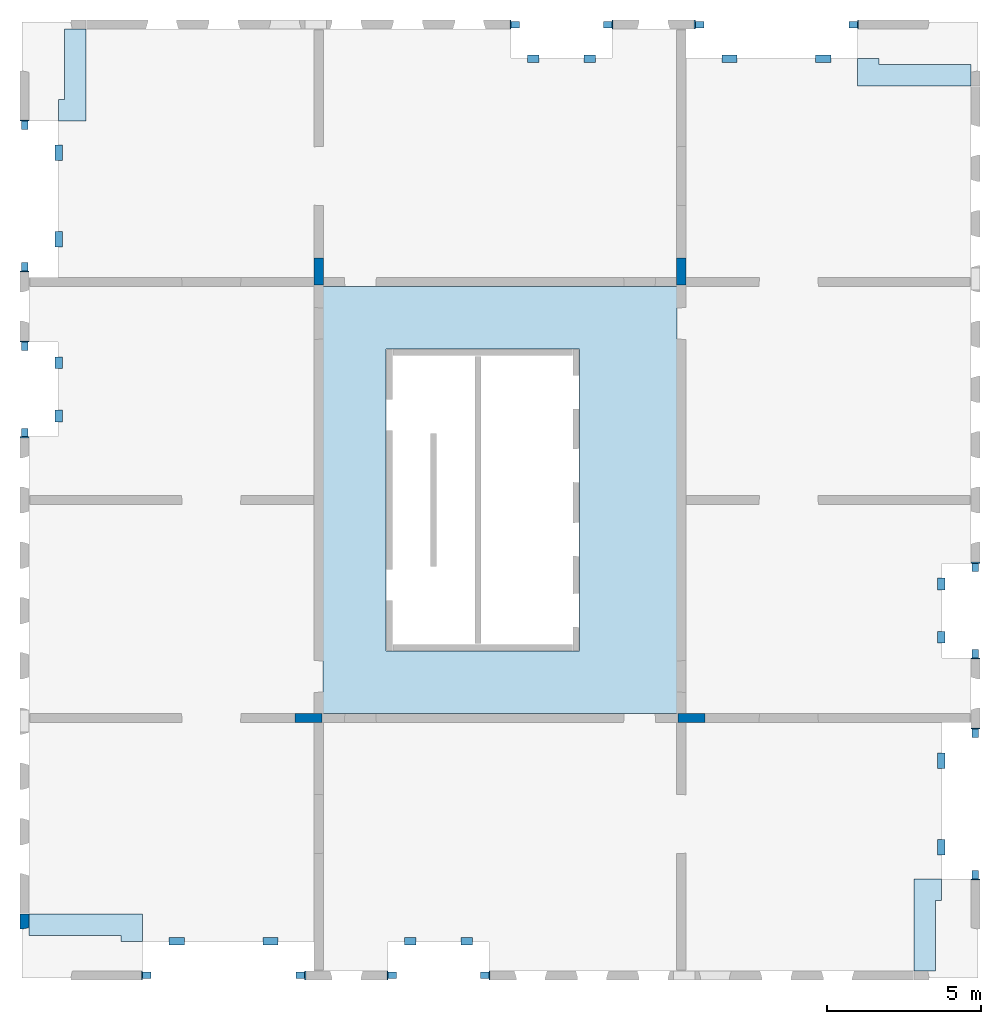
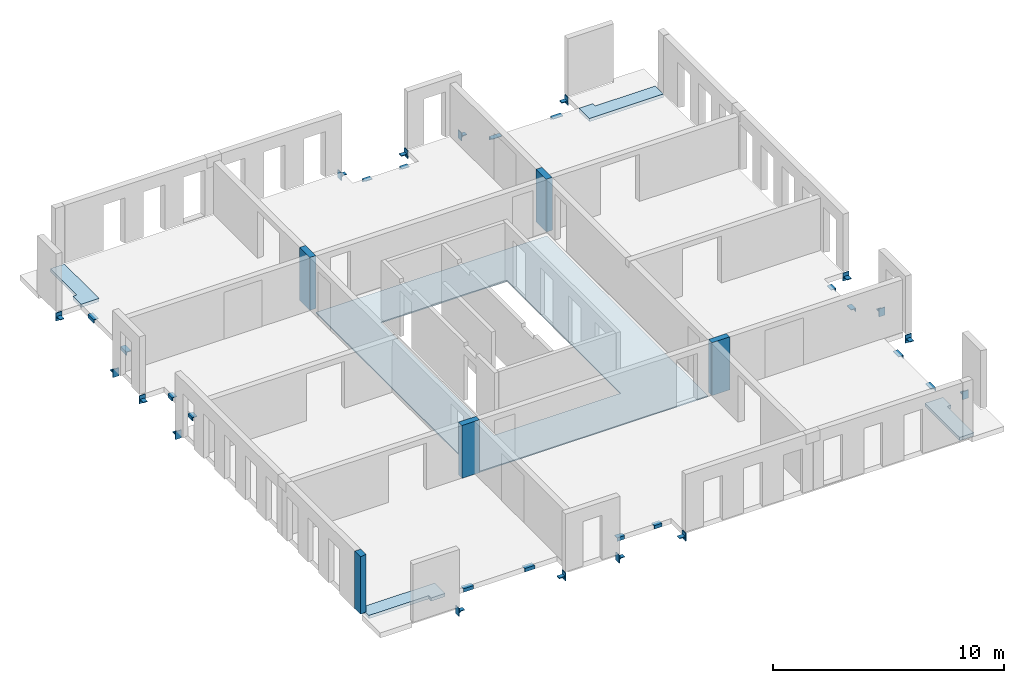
# One storey, part 1 of 5: 32 beams, 5 slabs, 4 columns, 1 wall, 2 openings.
"""IFC2X3 building model written with IfcOpenShell, lengths in millimetres."""

from ifc_helpers import new_model, entity, si_unit, converted_unit, derived_unit, direction, frame, frame_2d, origin, origin_2d_with_axis, place, context, subcontext, project, spatial, polyline, rectangle, outline, extrude, faceted_brep, source, transform, mapped, material, layer, layer_set, layer_usage, type_object, type_shapes, element, save


model = new_model("IFC2X3")

# Units and contexts
model_context = context("Model", 3, precision=0.01, world=origin(), true_north=direction((6.12303176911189e-17, 1.0)))
body_context = subcontext(model_context, "Body", "Model", "MODEL_VIEW")
ifc_project = project(units=[si_unit("LENGTHUNIT", "METRE", prefix="MILLI"), si_unit("AREAUNIT", "SQUARE_METRE"), si_unit("VOLUMEUNIT", "CUBIC_METRE"), converted_unit("PLANEANGLEUNIT", "DEGREE", entity("IfcRatioMeasure", 0.0174532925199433), si_unit("PLANEANGLEUNIT", "RADIAN"), dimensions=[0, 0, 0, 0, 0, 0, 0]), si_unit("MASSUNIT", "GRAM", prefix="KILO"), derived_unit("MASSDENSITYUNIT", [(si_unit("MASSUNIT", "GRAM", prefix="KILO"), 1), (si_unit("LENGTHUNIT", "METRE"), -3)]), si_unit("TIMEUNIT", "SECOND"), si_unit("FREQUENCYUNIT", "HERTZ"), si_unit("THERMODYNAMICTEMPERATUREUNIT", "DEGREE_CELSIUS"), derived_unit("THERMALTRANSMITTANCEUNIT", [(si_unit("MASSUNIT", "GRAM", prefix="KILO"), 1), (si_unit("THERMODYNAMICTEMPERATUREUNIT", "KELVIN"), -1), (si_unit("TIMEUNIT", "SECOND"), -3)]), derived_unit("VOLUMETRICFLOWRATEUNIT", [(si_unit("LENGTHUNIT", "METRE"), 3), (si_unit("TIMEUNIT", "SECOND"), -1)]), si_unit("ELECTRICCURRENTUNIT", "AMPERE"), si_unit("ELECTRICVOLTAGEUNIT", "VOLT"), si_unit("POWERUNIT", "WATT"), si_unit("FORCEUNIT", "NEWTON", prefix="KILO"), si_unit("ILLUMINANCEUNIT", "LUX"), si_unit("LUMINOUSFLUXUNIT", "LUMEN"), si_unit("LUMINOUSINTENSITYUNIT", "CANDELA"), derived_unit("USERDEFINED", [(si_unit("MASSUNIT", "GRAM", prefix="KILO"), -1), (si_unit("LENGTHUNIT", "METRE"), -2), (si_unit("TIMEUNIT", "SECOND"), 3), (si_unit("LUMINOUSFLUXUNIT", "LUMEN"), 1)]), derived_unit("LINEARVELOCITYUNIT", [(si_unit("LENGTHUNIT", "METRE"), 1), (si_unit("TIMEUNIT", "SECOND"), -1)]), si_unit("PRESSUREUNIT", "PASCAL"), derived_unit("USERDEFINED", [(si_unit("LENGTHUNIT", "METRE"), -2), (si_unit("MASSUNIT", "GRAM", prefix="KILO"), 1), (si_unit("TIMEUNIT", "SECOND"), -2)])], contexts=[model_context])

# Site, building, storey
site_placement = place(None, origin())
site = spatial("IfcSite", under=ifc_project, at=site_placement, Name="Default", CompositionType="ELEMENT")
building_placement = place(site_placement, origin())
building = spatial("IfcBuilding", under=site, at=building_placement, Name="niet gebruiken", CompositionType="ELEMENT")
storey_placement = place(building_placement, frame((0.0, 0.0, 155700.0)))
storey = spatial("IfcBuildingStorey", under=building, at=storey_placement, Name="50 vijftigste verdieping", CompositionType="ELEMENT", Elevation=155700.0)

# Columns
ifc_material_1 = material(Name="NLRS_f2_beton ihwg")
column_type_1 = type_object("IfcColumnType", Name="300x880", PredefinedType="COLUMN", material=ifc_material_1)
shared_shape_1 = source(origin(), body_context, "Body", "SweptSolid", [
    extrude(rectangle(XDim=879.999999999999, YDim=300.000000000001, at=origin_2d_with_axis()), frame((135850.0, 24940.0, 155610.0), z_axis=(0.0, 0.0, 1.0), x_axis=(0.0, -1.0, 0.0)), (0.0, 0.0, 1.0), 2789.99999999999),
])
type_shapes(column_type_1, [shared_shape_1])
column_1_placement = place(storey_placement, frame((0.0, 0.0, -155700.0)))
element("IfcColumn", 1, at=column_1_placement, inside=storey, type_object=column_type_1, material=ifc_material_1, Name="NLRS_28.11_SCO_TLB_beton kolom ihwg_gen:300x880", ObjectType="300x880", context=body_context, shape_type="MappedRepresentation", body=[
    mapped(shared_shape_1, transform((0.0, 0.0, 0.0), scale=1.0)),
])
column_type_2 = type_object("IfcColumnType", Name="300x880", PredefinedType="COLUMN", material=ifc_material_1)
shared_shape_2 = source(origin(), body_context, "Body", "SweptSolid", [
    extrude(rectangle(XDim=879.999999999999, YDim=300.000000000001, at=origin_2d_with_axis()), frame((147650.0, 24940.0, 155610.0), z_axis=(0.0, 0.0, 1.0), x_axis=(0.0, -1.0, 0.0)), (0.0, 0.0, 1.0), 2789.99999999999),
])
type_shapes(column_type_2, [shared_shape_2])
column_2_placement = place(storey_placement, frame((0.0, 0.0, -155700.0)))
element("IfcColumn", 2, at=column_2_placement, inside=storey, type_object=column_type_2, material=ifc_material_1, Name="NLRS_28.11_SCO_TLB_beton kolom ihwg_gen:300x880", ObjectType="300x880", context=body_context, shape_type="MappedRepresentation", body=[
    mapped(shared_shape_2, transform((0.0, 0.0, 0.0), scale=1.0)),
])
column_type_3 = type_object("IfcColumnType", Name="300x880", PredefinedType="COLUMN", material=ifc_material_1)
shared_shape_3 = source(origin(), body_context, "Body", "SweptSolid", [
    extrude(rectangle(XDim=300.000000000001, YDim=880.000000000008, at=origin_2d_with_axis()), frame((135510.003540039, 10400.0, 155610.0), z_axis=(0.0, 0.0, 1.0), x_axis=(0.0, -1.0, 0.0)), (0.0, 0.0, 1.0), 2789.99999999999),
])
type_shapes(column_type_3, [shared_shape_3])
column_3_placement = place(storey_placement, frame((0.0, 0.0, -155700.0)))
element("IfcColumn", 3, at=column_3_placement, inside=storey, type_object=column_type_3, material=ifc_material_1, Name="NLRS_28.11_SCO_TLB_beton kolom ihwg_gen:300x880", ObjectType="300x880", context=body_context, shape_type="MappedRepresentation", body=[
    mapped(shared_shape_3, transform((0.0, 0.0, 0.0), scale=1.0)),
])
column_type_4 = type_object("IfcColumnType", Name="300x880", PredefinedType="COLUMN", material=ifc_material_1)
shared_shape_4 = source(origin(), body_context, "Body", "SweptSolid", [
    extrude(rectangle(XDim=300.000000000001, YDim=880.000000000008, at=origin_2d_with_axis()), frame((147990.0, 10400.0, 155610.0), z_axis=(0.0, 0.0, 1.0), x_axis=(0.0, -1.0, 0.0)), (0.0, 0.0, 1.0), 2789.99999999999),
])
type_shapes(column_type_4, [shared_shape_4])
column_4_placement = place(storey_placement, frame((0.0, 0.0, -155700.0)))
element("IfcColumn", 4, at=column_4_placement, inside=storey, type_object=column_type_4, material=ifc_material_1, Name="NLRS_28.11_SCO_TLB_beton kolom ihwg_gen:300x880", ObjectType="300x880", context=body_context, shape_type="MappedRepresentation", body=[
    mapped(shared_shape_4, transform((0.0, 0.0, 0.0), scale=1.0)),
])

# Beams
ifc_material_2 = material(Name="NLRS_h2_staal")
beam_type_1 = type_object("IfcBeamType", Name="NLRS_28.11_SF_WPB_stalen schoen 4_gen", PredefinedType="BEAM", material=ifc_material_2)
shared_shape_5 = source(origin(), body_context, "Body", "SweptSolid", [
    extrude(outline(polyline([(-69.4999999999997, -23.0), (8.49999999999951, -23.0), (30.5, -1.0), (30.5000000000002, 47.0), (-69.4999999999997, -23.0)])), frame((-105.0, -109.499999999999, -58.0), z_axis=(1.0, 0.0, 0.0), x_axis=(0.0, -1.0, 0.0)), (0.0, 0.0, 1.0), 35.0),
    extrude(outline(polyline([(-69.4999999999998, -23.0), (8.49999999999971, -23.0), (30.5, -1.0), (30.5000000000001, 47.0), (-69.4999999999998, -23.0)])), frame((70.0, -109.499999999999, -58.0), z_axis=(1.0, 0.0, 0.0), x_axis=(0.0, -1.0, 0.0)), (0.0, 0.0, 1.0), 35.0),
    extrude(rectangle(XDim=300.0, YDim=34.9999999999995, at=origin_2d_with_axis()), frame((0.0, -157.5, -230.0), z_axis=(0.0, 0.0, 1.0), x_axis=(-1.0, 0.0, 0.0)), (0.0, 0.0, 1.0), 420.0),
    extrude(rectangle(XDim=210.000000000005, YDim=274.999999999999, at=origin_2d_with_axis()), frame((0.0, -2.4999999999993, -35.0), z_axis=(0.0, 0.0, 1.0), x_axis=(-1.0, 0.0, 0.0)), (0.0, 0.0, 1.0), 35.0),
])
type_shapes(beam_type_1, [shared_shape_5])
beam_1_placement = place(storey_placement, frame((157230.0, 12500.0, -310.0)))
element("IfcBeam", 5, at=beam_1_placement, inside=storey, type_object=beam_type_1, material=ifc_material_2, Name="NLRS_28.11_SF_WPB_stalen schoen 4_gen:NLRS_28.11_SF_WPB_stalen schoen 4_gen", ObjectType="NLRS_28.11_SF_WPB_stalen schoen 4_gen", context=body_context, shape_type="MappedRepresentation", body=[
    mapped(shared_shape_5, transform((0.0, 0.0, 0.0), scale=1.0)),
])
for number, where, z_axis, x_axis, name in (
    (6, (157230.0, 15300.0, -310.0), (0.0, 0.0, 1.0), (-1.0, 0.0, 0.0), "NLRS_28.11_SF_WPB_stalen schoen 4_gen:NLRS_28.11_SF_WPB_stalen schoen 4_gen"),
    (7, (126270.0, 22500.0, -310.0), (0.0, 0.0, 1.0), (-1.0, 0.0, 0.0), "NLRS_28.11_SF_WPB_stalen schoen 4_gen:NLRS_28.11_SF_WPB_stalen schoen 4_gen"),
):
    element("IfcBeam", number, at=place(storey_placement, frame(where, z_axis=z_axis, x_axis=x_axis)), inside=storey, type_object=beam_type_1, material=ifc_material_2, Name=name, ObjectType="NLRS_28.11_SF_WPB_stalen schoen 4_gen", context=body_context, shape_type="MappedRepresentation", body=[
        mapped(shared_shape_5, transform((0.0, 0.0, 0.0), scale=1.0)),
    ])
beam_2_placement = place(storey_placement, frame((126270.0, 19700.0, -310.0)))
element("IfcBeam", 8, at=beam_2_placement, inside=storey, type_object=beam_type_1, material=ifc_material_2, Name="NLRS_28.11_SF_WPB_stalen schoen 4_gen:NLRS_28.11_SF_WPB_stalen schoen 4_gen", ObjectType="NLRS_28.11_SF_WPB_stalen schoen 4_gen", context=body_context, shape_type="MappedRepresentation", body=[
    mapped(shared_shape_5, transform((0.0, 0.0, 0.0), scale=1.0)),
])
for number, where, z_axis, x_axis, name in (
    (9, (138250.0, 2020.0, -310.0), (0.0, 0.0, 1.0), (0.0, -1.0, 0.0), "NLRS_28.11_SF_WPB_stalen schoen 4_gen:NLRS_28.11_SF_WPB_stalen schoen 4_gen"),
    (10, (141250.0, 2020.0, -310.0), (0.0, 0.0, 1.0), (0.0, 1.0, 0.0), "NLRS_28.11_SF_WPB_stalen schoen 4_gen:NLRS_28.11_SF_WPB_stalen schoen 4_gen"),
    (11, (145250.0, 32980.0, -310.0), (0.0, 0.0, 1.0), (0.0, 1.0, 0.0), "NLRS_28.11_SF_WPB_stalen schoen 4_gen:NLRS_28.11_SF_WPB_stalen schoen 4_gen"),
    (12, (142250.0, 32980.0, -310.0), (0.0, 0.0, 1.0), (0.0, -1.0, 0.0), "NLRS_28.11_SF_WPB_stalen schoen 4_gen:NLRS_28.11_SF_WPB_stalen schoen 4_gen"),
):
    element("IfcBeam", number, at=place(storey_placement, frame(where, z_axis=z_axis, x_axis=x_axis)), inside=storey, type_object=beam_type_1, material=ifc_material_2, Name=name, ObjectType="NLRS_28.11_SF_WPB_stalen schoen 4_gen", context=body_context, shape_type="MappedRepresentation", body=[
        mapped(shared_shape_5, transform((0.0, 0.0, 0.0), scale=1.0)),
    ])
beam_type_2 = type_object("IfcBeamType", Name="NLRS_28.11_SF_WPB_stalen schoen 3_gen", PredefinedType="BEAM", material=ifc_material_2)
shared_shape_6 = source(origin(), body_context, "Body", "SweptSolid", [
    extrude(outline(polyline([(-69.4999999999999, -23.0), (8.49999999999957, -23.0), (30.5000000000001, -1.0), (30.5000000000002, 47.0), (-69.4999999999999, -23.0)])), frame((-105.0, -109.499999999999, -63.0), z_axis=(1.0, 0.0, 0.0), x_axis=(0.0, -1.0, 0.0)), (0.0, 0.0, 1.0), 40.0),
    extrude(outline(polyline([(-69.4999999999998, -23.0), (8.49999999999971, -23.0), (30.5, -1.0), (30.5000000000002, 47.0), (-69.4999999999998, -23.0)])), frame((65.0, -109.499999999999, -63.0), z_axis=(1.0, 0.0, 0.0), x_axis=(0.0, -1.0, 0.0)), (0.0, 0.0, 1.0), 40.0),
    extrude(rectangle(XDim=300.0, YDim=39.9999999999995, at=origin_2d_with_axis()), frame((0.0, -160.0, -230.0), z_axis=(0.0, 0.0, 1.0), x_axis=(-1.0, 0.0, 0.0)), (0.0, 0.0, 1.0), 420.0),
    extrude(rectangle(XDim=210.000000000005, YDim=274.999999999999, at=origin_2d_with_axis()), frame((0.0, -2.49999999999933, -40.0), z_axis=(0.0, 0.0, 1.0), x_axis=(-1.0, 0.0, 0.0)), (0.0, 0.0, 1.0), 39.9999999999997),
])
type_shapes(beam_type_2, [shared_shape_6])
beam_3_placement = place(storey_placement, frame((157230.0, 9900.0, -310.0), z_axis=(0.0, 0.0, 1.0), x_axis=(-1.0, 0.0, 0.0)))
element("IfcBeam", 13, at=beam_3_placement, inside=storey, type_object=beam_type_2, material=ifc_material_2, Name="NLRS_28.11_SF_WPB_stalen schoen 3_gen:NLRS_28.11_SF_WPB_stalen schoen 3_gen", ObjectType="NLRS_28.11_SF_WPB_stalen schoen 3_gen", context=body_context, shape_type="MappedRepresentation", body=[
    mapped(shared_shape_6, transform((0.0, 0.0, 0.0), scale=1.0)),
])
for number, where, name in (
    (14, (157230.0, 5300.0, -310.0), "NLRS_28.11_SF_WPB_stalen schoen 3_gen:NLRS_28.11_SF_WPB_stalen schoen 3_gen"),
    (15, (126270.0, 25100.0, -310.0), "NLRS_28.11_SF_WPB_stalen schoen 3_gen:NLRS_28.11_SF_WPB_stalen schoen 3_gen"),
):
    element("IfcBeam", number, at=place(storey_placement, frame(where)), inside=storey, type_object=beam_type_2, material=ifc_material_2, Name=name, ObjectType="NLRS_28.11_SF_WPB_stalen schoen 3_gen", context=body_context, shape_type="MappedRepresentation", body=[
        mapped(shared_shape_6, transform((0.0, 0.0, 0.0), scale=1.0)),
    ])
for number, where, z_axis, x_axis, name in (
    (16, (126270.0, 29700.0, -310.0), (0.0, 0.0, 1.0), (-1.0, 0.0, 0.0), "NLRS_28.11_SF_WPB_stalen schoen 3_gen:NLRS_28.11_SF_WPB_stalen schoen 3_gen"),
    (17, (135250.0, 2020.0, -310.0), (0.0, 0.0, 1.0), (0.0, 1.0, 0.0), "NLRS_28.11_SF_WPB_stalen schoen 3_gen:NLRS_28.11_SF_WPB_stalen schoen 3_gen"),
    (18, (130250.0, 2020.0, -310.0), (0.0, 0.0, 1.0), (0.0, -1.0, 0.0), "NLRS_28.11_SF_WPB_stalen schoen 3_gen:NLRS_28.11_SF_WPB_stalen schoen 3_gen"),
    (19, (148250.0, 32980.0, -310.0), (0.0, 0.0, 1.0), (0.0, -1.0, 0.0), "NLRS_28.11_SF_WPB_stalen schoen 3_gen:NLRS_28.11_SF_WPB_stalen schoen 3_gen"),
    (20, (153250.0, 32980.0, -310.0), (0.0, 0.0, 1.0), (0.0, 1.0, 0.0), "NLRS_28.11_SF_WPB_stalen schoen 3_gen:NLRS_28.11_SF_WPB_stalen schoen 3_gen"),
):
    element("IfcBeam", number, at=place(storey_placement, frame(where, z_axis=z_axis, x_axis=x_axis)), inside=storey, type_object=beam_type_2, material=ifc_material_2, Name=name, ObjectType="NLRS_28.11_SF_WPB_stalen schoen 3_gen", context=body_context, shape_type="MappedRepresentation", body=[
        mapped(shared_shape_6, transform((0.0, 0.0, 0.0), scale=1.0)),
    ])
beam_type_3 = type_object("IfcBeamType", Name="NLRS_28.11_SF_WPB_stalen handje 7 lang 375_gen:NLRS_28.11_SF_WPB_stalen handje 7_gen", PredefinedType="BEAM")
beam_4_placement = place(storey_placement, frame((156235.125015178, 9255.24886461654, -93.0), z_axis=(0.0, 0.0, 1.0), x_axis=(0.0, -1.0, 0.0)))
element("IfcBeam", 21, at=beam_4_placement, inside=storey, type_object=beam_type_3, material=ifc_material_2, Name="NLRS_28.11_SF_WPB_stalen handje 7 lang 375_gen:NLRS_28.11_SF_WPB_stalen handje 7_gen", ObjectType="NLRS_28.11_SF_WPB_stalen handje 7 lang 375_gen:NLRS_28.11_SF_WPB_stalen handje 7_gen", context=body_context, shape_type="SweptSolid", body=[
    extrude(outline(polyline([(-70.6666666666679, -153.333333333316), (-40.6666666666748, -153.333333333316), (-40.6666666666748, 61.66666666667), (111.333333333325, 61.66666666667), (111.333333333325, 91.6666666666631), (-70.6666666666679, 91.6666666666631), (-70.6666666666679, -153.333333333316)])), frame((0.0, -91.6666666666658, -70.6666666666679), z_axis=(1.0, 0.0, 0.0), x_axis=(0.0, 0.0, -1.0)), (0.0, 0.0, 1.0), 500.000000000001),
])
beam_5_placement = place(storey_placement, frame((156235.125015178, 6445.2458243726, -93.0), z_axis=(0.0, 0.0, 1.0), x_axis=(0.0, -1.0, 0.0)))
element("IfcBeam", 22, at=beam_5_placement, inside=storey, type_object=beam_type_3, material=ifc_material_2, Name="NLRS_28.11_SF_WPB_stalen handje 7 lang 375_gen:NLRS_28.11_SF_WPB_stalen handje 7_gen", ObjectType="NLRS_28.11_SF_WPB_stalen handje 7 lang 375_gen:NLRS_28.11_SF_WPB_stalen handje 7_gen", context=body_context, shape_type="SweptSolid", body=[
    extrude(outline(polyline([(-70.6666666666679, -153.333333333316), (-40.6666666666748, -153.333333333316), (-40.6666666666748, 61.66666666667), (111.333333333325, 61.66666666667), (111.333333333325, 91.6666666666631), (-70.6666666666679, 91.6666666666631), (-70.6666666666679, -153.333333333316)])), frame((0.0, -91.6666666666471, -70.6666666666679), z_axis=(1.0, 0.0, 0.0), x_axis=(0.0, 0.0, -1.0)), (0.0, 0.0, 1.0), 500.000000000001),
])
beam_6_placement = place(storey_placement, frame((127264.874984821, 25744.7511353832, -93.0), z_axis=(0.0, 0.0, 1.0), x_axis=(0.0, 1.0, 0.0)))
element("IfcBeam", 23, at=beam_6_placement, inside=storey, type_object=beam_type_3, material=ifc_material_2, Name="NLRS_28.11_SF_WPB_stalen handje 7 lang 375_gen:NLRS_28.11_SF_WPB_stalen handje 7_gen", ObjectType="NLRS_28.11_SF_WPB_stalen handje 7 lang 375_gen:NLRS_28.11_SF_WPB_stalen handje 7_gen", context=body_context, shape_type="SweptSolid", body=[
    extrude(outline(polyline([(-70.6666666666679, -153.333333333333), (-40.6666666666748, -153.333333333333), (-40.6666666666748, 61.66666666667), (111.333333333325, 61.6666666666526), (111.333333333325, 91.6666666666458), (-70.6666666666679, 91.6666666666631), (-70.6666666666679, -153.333333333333)])), frame((0.0, -91.6666666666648, -70.6666666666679), z_axis=(1.0, 0.0, 0.0), x_axis=(0.0, 0.0, -1.0)), (0.0, 0.0, 1.0), 500.000000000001),
])
beam_7_placement = place(storey_placement, frame((127264.874984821, 28554.7541756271, -93.0), z_axis=(0.0, 0.0, 1.0), x_axis=(0.0, 1.0, 0.0)))
element("IfcBeam", 24, at=beam_7_placement, inside=storey, type_object=beam_type_3, material=ifc_material_2, Name="NLRS_28.11_SF_WPB_stalen handje 7 lang 375_gen:NLRS_28.11_SF_WPB_stalen handje 7_gen", ObjectType="NLRS_28.11_SF_WPB_stalen handje 7 lang 375_gen:NLRS_28.11_SF_WPB_stalen handje 7_gen", context=body_context, shape_type="SweptSolid", body=[
    extrude(outline(polyline([(-70.6666666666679, -153.333333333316), (-40.6666666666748, -153.333333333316), (-40.6666666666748, 61.6666666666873), (111.333333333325, 61.66666666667), (111.333333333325, 91.6666666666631), (-70.6666666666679, 91.6666666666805), (-70.6666666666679, -153.333333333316)])), frame((0.0, -91.66666666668, -70.6666666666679), z_axis=(1.0, 0.0, 0.0), x_axis=(0.0, 0.0, -1.0)), (0.0, 0.0, 1.0), 500.000000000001),
])
for number, where, z_axis, x_axis, name in (
    (25, (140862.631597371, 3015.23611279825, -93.0), (0.0, 0.0, 1.0), (-1.0, 0.0, 0.0), "NLRS_28.11_SF_WPB_stalen handje 7 lang 375_gen:NLRS_28.11_SF_WPB_stalen handje 7_gen"),
    (26, (139012.628555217, 3015.2361127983, -93.0), (0.0, 0.0, 1.0), (-1.0, 0.0, 0.0), "NLRS_28.11_SF_WPB_stalen handje 7 lang 375_gen:NLRS_28.11_SF_WPB_stalen handje 7_gen"),
):
    element("IfcBeam", number, at=place(storey_placement, frame(where, z_axis=z_axis, x_axis=x_axis)), inside=storey, type_object=beam_type_3, material=ifc_material_2, Name=name, ObjectType="NLRS_28.11_SF_WPB_stalen handje 7 lang 375_gen:NLRS_28.11_SF_WPB_stalen handje 7_gen", context=body_context, shape_type="SweptSolid", body=[
        extrude(outline(polyline([(-70.666666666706, -153.333333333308), (-40.6666666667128, -153.333333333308), (-40.6666666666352, 61.6666666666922), (111.333333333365, 61.6666666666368), (111.333333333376, 91.6666666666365), (-70.6666666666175, 91.6666666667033), (-70.666666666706, -153.333333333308)])), frame((0.0, -91.6666666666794, -70.6666666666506), z_axis=(1.0, 0.0, 0.0), x_axis=(0.0, 0.0, -1.0)), (0.0, 0.0, 1.0), 375.000000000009),
    ])
for number, where, z_axis, x_axis, name in (
    (27, (134525.131597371, 3015.23611279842, -93.0), (0.0, 0.0, 1.0), (-1.0, 0.0, 0.0), "NLRS_28.11_SF_WPB_stalen handje 7 lang 375_gen:NLRS_28.11_SF_WPB_stalen handje 7_gen"),
    (28, (131475.128555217, 3015.23611279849, -93.0), (0.0, 0.0, 1.0), (-1.0, 0.0, 0.0), "NLRS_28.11_SF_WPB_stalen handje 7 lang 375_gen:NLRS_28.11_SF_WPB_stalen handje 7_gen"),
):
    element("IfcBeam", number, at=place(storey_placement, frame(where, z_axis=z_axis, x_axis=x_axis)), inside=storey, type_object=beam_type_3, material=ifc_material_2, Name=name, ObjectType="NLRS_28.11_SF_WPB_stalen handje 7 lang 375_gen:NLRS_28.11_SF_WPB_stalen handje 7_gen", context=body_context, shape_type="SweptSolid", body=[
        extrude(outline(polyline([(-70.6666666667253, -153.333333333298), (-40.6666666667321, -153.333333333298), (-40.6666666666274, 61.6666666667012), (111.333333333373, 61.6666666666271), (111.333333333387, 91.6666666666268), (-70.6666666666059, 91.666666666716), (-70.6666666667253, -153.333333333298)])), frame((0.0, -91.6666666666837, -70.6666666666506), z_axis=(1.0, 0.0, 0.0), x_axis=(0.0, 0.0, -1.0)), (0.0, 0.0, 1.0), 500.000000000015),
    ])
for number, where, name in (
    (29, (142637.368402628, 31984.7638872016, -93.0), "NLRS_28.11_SF_WPB_stalen handje 7 lang 375_gen:NLRS_28.11_SF_WPB_stalen handje 7_gen"),
    (30, (144487.371444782, 31984.7638872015, -93.0), "NLRS_28.11_SF_WPB_stalen handje 7 lang 375_gen:NLRS_28.11_SF_WPB_stalen handje 7_gen"),
):
    element("IfcBeam", number, at=place(storey_placement, frame(where)), inside=storey, type_object=beam_type_3, material=ifc_material_2, Name=name, ObjectType="NLRS_28.11_SF_WPB_stalen handje 7 lang 375_gen:NLRS_28.11_SF_WPB_stalen handje 7_gen", context=body_context, shape_type="SweptSolid", body=[
        extrude(outline(polyline([(-70.6666666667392, -153.333333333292), (-40.666666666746, -153.333333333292), (-40.6666666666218, 61.6666666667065), (111.333333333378, 61.6666666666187), (111.333333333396, 91.6666666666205), (-70.6666666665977, 91.6666666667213), (-70.6666666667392, -153.333333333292)])), frame((0.0, -91.6666666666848, -70.6666666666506), z_axis=(1.0, 0.0, 0.0), x_axis=(0.0, 0.0, -1.0)), (0.0, 0.0, 1.0), 375.000000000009),
    ])
for number, where, name in (
    (31, (148974.868402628, 31984.7638872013, -93.0), "NLRS_28.11_SF_WPB_stalen handje 7 lang 375_gen:NLRS_28.11_SF_WPB_stalen handje 7_gen"),
    (32, (152024.871444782, 31984.7638872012, -93.0), "NLRS_28.11_SF_WPB_stalen handje 7 lang 375_gen:NLRS_28.11_SF_WPB_stalen handje 7_gen"),
):
    element("IfcBeam", number, at=place(storey_placement, frame(where)), inside=storey, type_object=beam_type_3, material=ifc_material_2, Name=name, ObjectType="NLRS_28.11_SF_WPB_stalen handje 7 lang 375_gen:NLRS_28.11_SF_WPB_stalen handje 7_gen", context=body_context, shape_type="SweptSolid", body=[
        extrude(outline(polyline([(-70.6666666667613, -153.333333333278), (-40.6666666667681, -153.333333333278), (-40.6666666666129, 61.6666666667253), (111.333333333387, 61.6666666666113), (111.333333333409, 91.6666666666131), (-70.6666666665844, 91.6666666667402), (-70.6666666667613, -153.333333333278)])), frame((0.0, -91.6666666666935, -70.6666666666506), z_axis=(1.0, 0.0, 0.0), x_axis=(0.0, 0.0, -1.0)), (0.0, 0.0, 1.0), 500.000000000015),
    ])
beam_8_placement = place(storey_placement, frame((156235.0, 14952.5097115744, -93.0), z_axis=(0.0, 0.0, 1.0), x_axis=(0.0, -1.0, 0.0)))
element("IfcBeam", 33, at=beam_8_placement, inside=storey, type_object=beam_type_3, material=ifc_material_2, Name="NLRS_28.11_SF_WPB_stalen handje 7 lang 375_gen:NLRS_28.11_SF_WPB_stalen handje 7_gen", ObjectType="NLRS_28.11_SF_WPB_stalen handje 7 lang 375_gen:NLRS_28.11_SF_WPB_stalen handje 7_gen", context=body_context, shape_type="SweptSolid", body=[
    extrude(outline(polyline([(-70.6666666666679, -153.333333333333), (-40.6666666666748, -153.333333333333), (-40.6666666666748, 61.66666666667), (111.333333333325, 61.66666666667), (111.333333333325, 91.6666666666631), (-70.6666666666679, 91.6666666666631), (-70.6666666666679, -153.333333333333)])), frame((0.0, -91.6666666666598, -70.6666666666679), z_axis=(1.0, 0.0, 0.0), x_axis=(0.0, 0.0, -1.0)), (0.0, 0.0, 1.0), 375.000000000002),
])
beam_9_placement = place(storey_placement, frame((156235.0, 13222.5097115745, -93.0), z_axis=(0.0, 0.0, 1.0), x_axis=(0.0, -1.0, 0.0)))
element("IfcBeam", 34, at=beam_9_placement, inside=storey, type_object=beam_type_3, material=ifc_material_2, Name="NLRS_28.11_SF_WPB_stalen handje 7 lang 375_gen:NLRS_28.11_SF_WPB_stalen handje 7_gen", ObjectType="NLRS_28.11_SF_WPB_stalen handje 7 lang 375_gen:NLRS_28.11_SF_WPB_stalen handje 7_gen", context=body_context, shape_type="SweptSolid", body=[
    extrude(outline(polyline([(-70.6666666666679, -153.333333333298), (-40.6666666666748, -153.333333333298), (-40.6666666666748, 61.6666666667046), (111.333333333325, 61.6666666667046), (111.333333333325, 91.6666666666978), (-70.6666666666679, 91.6666666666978), (-70.6666666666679, -153.333333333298)])), frame((0.0, -91.6666666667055, -70.6666666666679), z_axis=(1.0, 0.0, 0.0), x_axis=(0.0, 0.0, -1.0)), (0.0, 0.0, 1.0), 375.000000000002),
])
beam_10_placement = place(storey_placement, frame((127265.0, 20047.4902884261, -93.0), z_axis=(0.0, 0.0, 1.0), x_axis=(0.0, 1.0, 0.0)))
element("IfcBeam", 35, at=beam_10_placement, inside=storey, type_object=beam_type_3, material=ifc_material_2, Name="NLRS_28.11_SF_WPB_stalen handje 7 lang 375_gen:NLRS_28.11_SF_WPB_stalen handje 7_gen", ObjectType="NLRS_28.11_SF_WPB_stalen handje 7 lang 375_gen:NLRS_28.11_SF_WPB_stalen handje 7_gen", context=body_context, shape_type="SweptSolid", body=[
    extrude(outline(polyline([(-70.6666666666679, -153.333333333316), (-40.6666666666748, -153.333333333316), (-40.6666666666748, 61.6666666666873), (111.333333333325, 61.66666666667), (111.333333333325, 91.6666666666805), (-70.6666666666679, 91.6666666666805), (-70.6666666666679, -153.333333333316)])), frame((0.0, -91.6666666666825, -70.6666666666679), z_axis=(1.0, 0.0, 0.0), x_axis=(0.0, 0.0, -1.0)), (0.0, 0.0, 1.0), 375.000000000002),
])
beam_11_placement = place(storey_placement, frame((127265.0, 21777.4902884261, -93.0), z_axis=(0.0, 0.0, 1.0), x_axis=(0.0, 1.0, 0.0)))
element("IfcBeam", 36, at=beam_11_placement, inside=storey, type_object=beam_type_3, material=ifc_material_2, Name="NLRS_28.11_SF_WPB_stalen handje 7 lang 375_gen:NLRS_28.11_SF_WPB_stalen handje 7_gen", ObjectType="NLRS_28.11_SF_WPB_stalen handje 7 lang 375_gen:NLRS_28.11_SF_WPB_stalen handje 7_gen", context=body_context, shape_type="SweptSolid", body=[
    extrude(outline(polyline([(-70.6666666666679, -153.33333333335), (-40.6666666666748, -153.33333333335), (-40.6666666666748, 61.6666666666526), (111.333333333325, 61.6666666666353), (111.333333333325, 91.6666666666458), (-70.6666666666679, 91.6666666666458), (-70.6666666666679, -153.33333333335)])), frame((0.0, -91.6666666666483, -70.6666666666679), z_axis=(1.0, 0.0, 0.0), x_axis=(0.0, 0.0, -1.0)), (0.0, 0.0, 1.0), 375.000000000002),
])

# Slabs
ifc_layer_1 = layer(ifc_material_1, 170.0)
ifc_layer_set_1 = layer_set([ifc_layer_1], Name="Floor:NLRS_23.21_FL_beton ihwg d=170_gen")
ifc_layer_usage_1 = layer_usage(ifc_layer_set_1, "AXIS3", "POSITIVE", 0.0)
slab_1_placement = place(storey_placement, origin())
element("IfcSlab", 37, at=slab_1_placement, inside=storey, material=ifc_layer_usage_1, Name="Floor:NLRS_23.21_FL_beton ihwg d=170_gen", ObjectType="Floor:NLRS_23.21_FL_beton ihwg d=170_gen", PredefinedType="FLOOR", context=body_context, shape_type="SweptSolid", body=[
    extrude(outline(polyline([(-1230.0, -366.666666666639), (-530.0, -366.666666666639), (-530.0, -166.66666666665), (1760.0, -166.666666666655), (1760.0, 533.333333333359), (-1230.0, 533.333333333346), (-1230.0, -366.666666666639)])), frame((127736.666666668, 31070.0, -90.0), z_axis=(0.0, 0.0, -1.0), x_axis=(0.0, 1.0, 0.0)), (0.0, 0.0, 1.0), 169.999999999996),
])
ifc_layer_usage_2 = layer_usage(ifc_layer_set_1, "AXIS3", "POSITIVE", 0.0)
slab_2_placement = place(storey_placement, origin())
element("IfcSlab", 38, at=slab_2_placement, inside=storey, material=ifc_layer_usage_2, Name="Floor:NLRS_23.21_FL_beton ihwg d=170_gen", ObjectType="Floor:NLRS_23.21_FL_beton ihwg d=170_gen", PredefinedType="FLOOR", context=body_context, shape_type="SweptSolid", body=[
    extrude(outline(polyline([(-1760.0, -533.33333333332), (1230.0, -533.33333333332), (1230.0, 366.666666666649), (530.0, 366.666666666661), (530.0, 166.666666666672), (-1760.0, 166.666666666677), (-1760.0, -533.33333333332)])), frame((155763.333333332, 3930.0, -90.0), z_axis=(0.0, 0.0, -1.0), x_axis=(0.0, 1.0, 0.0)), (0.0, 0.0, 1.0), 169.999999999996),
])
ifc_layer_usage_3 = layer_usage(ifc_layer_set_1, "AXIS3", "POSITIVE", 0.0)
slab_3_placement = place(storey_placement, origin())
element("IfcSlab", 39, at=slab_3_placement, inside=storey, material=ifc_layer_usage_3, Name="Floor:NLRS_23.21_FL_beton ihwg d=170_gen", ObjectType="Floor:NLRS_23.21_FL_beton ihwg d=170_gen", PredefinedType="FLOOR", context=body_context, shape_type="SweptSolid", body=[
    extrude(outline(polyline([(-166.666666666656, -2226.66666666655), (533.333333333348, -2226.66666666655), (533.333333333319, 1463.33333333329), (-366.666666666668, 1463.33333333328), (-366.666666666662, 763.333333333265), (-166.666666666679, 763.333333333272), (-166.666666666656, -2226.66666666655)])), frame((128646.666666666, 3486.66666667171, -90.0), z_axis=(0.0, 0.0, -1.0), x_axis=(0.0, 1.0, 0.0)), (0.0, 0.0, 1.0), 169.999999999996),
])
ifc_layer_usage_4 = layer_usage(ifc_layer_set_1, "AXIS3", "POSITIVE", 0.0)
slab_4_placement = place(storey_placement, origin())
element("IfcSlab", 40, at=slab_4_placement, inside=storey, material=ifc_layer_usage_4, Name="Floor:NLRS_23.21_FL_beton ihwg d=170_gen", ObjectType="Floor:NLRS_23.21_FL_beton ihwg d=170_gen", PredefinedType="FLOOR", context=body_context, shape_type="SweptSolid", body=[
    extrude(outline(polyline([(-533.333333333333, -1463.33333333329), (366.666666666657, -1463.33333333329), (366.666666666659, -763.333333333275), (166.66666666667, -763.333333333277), (166.666666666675, 2226.66666666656), (-533.333333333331, 2226.66666666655), (-533.333333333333, -1463.33333333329)])), frame((154853.333333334, 31513.3333333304, -90.0), z_axis=(0.0, 0.0, -1.0), x_axis=(0.0, 1.0, 0.0)), (0.0, 0.0, 1.0), 169.999999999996),
])

# Slab, opening
ifc_material_3 = material(Name="NLRS_f2_beton prefab")
ifc_layer_2 = layer(ifc_material_3, 60.0)
ifc_layer_set_2 = layer_set([ifc_layer_2], Name="Floor:NLRS_23.21_FL_breedplaat d=60_gen")
ifc_layer_usage_5 = layer_usage(ifc_layer_set_2, "AXIS3", "POSITIVE", 0.0)
slab_5_placement = place(storey_placement, frame((135990.0, 10540.0, -320.0)))
slab_5 = element("IfcSlab", 41, at=slab_5_placement, inside=storey, material=ifc_layer_usage_5, Name="Floor:NLRS_23.21_FL_breedplaat d=60_gen", ObjectType="Floor:NLRS_23.21_FL_breedplaat d=60_gen", PredefinedType="FLOOR", context=body_context, shape_type="SweptSolid", body=[
    extrude(rectangle(XDim=13919.9999999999, YDim=11520.0, at=frame_2d((0.0, 0.0), x_axis=(0.0, -1.0))), frame((5760.0, 6960.0, 60.0), z_axis=(0.0, 0.0, -1.0), x_axis=(-1.0, 0.0, 0.0)), (0.0, 0.0, 1.0), 60.0000000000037),
])
opening_1_placement = place(slab_5_placement, frame((5200.0, 6960.0, 60.0)))
element("IfcOpeningElement", 42, at=opening_1_placement, cuts=slab_5, Name="Floor:NLRS_23.21_FL_breedplaat d=60_gen:2", ObjectType="Opening", context=body_context, shape_type="SweptSolid", body=[
    extrude(rectangle(XDim=9820.0, YDim=6299.99999999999, at=origin_2d_with_axis()), frame((0.0, 0.0, 0.0), z_axis=(0.0, 0.0, -1.0), x_axis=(0.0, -1.0, 0.0)), (0.0, 0.0, 1.0), 60.0000000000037),
])

# Wall, opening
ifc_layer_3 = layer(ifc_material_3, 300.0)
ifc_layer_set_3 = layer_set([ifc_layer_3], Name="Basic Wall:NLRS_21.21_WA_beton prefab d=300/320_gen")
ifc_layer_usage_6 = layer_usage(ifc_layer_set_3, "AXIS2", "NEGATIVE", 150.0)
wall_type = type_object("IfcWallType", Name="Basic Wall:NLRS_21.21_WA_beton prefab d=300/320_gen", PredefinedType="STANDARD", material=ifc_layer_set_3)
wall_placement = place(storey_placement, frame((126270.0, 3530.0, -50.0), z_axis=(0.0, 0.0, 1.0), x_axis=(0.0, 1.0, 0.0)))
wall = element("IfcWallStandardCase", 43, at=wall_placement, inside=storey, type_object=wall_type, material=ifc_layer_usage_6, Name="Basic Wall:NLRS_21.21_WA_beton prefab d=300/320_gen", ObjectType="Basic Wall:NLRS_21.21_WA_beton prefab d=300/320_gen", context=body_context, shape_type="SweptSolid", body=[
    extrude(rectangle(XDim=489.999999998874, YDim=300.000000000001, at=frame_2d((244.999999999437, -3.25428572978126e-12), x_axis=(-1.0, 0.0))), origin(), (0.0, 0.0, 1.0), 3040.0),
])
opening_2_placement = place(wall_placement, frame((-1.97405825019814e-09, 69.0, 0.0)))
element("IfcOpeningElement", 44, at=opening_2_placement, cuts=wall, Name="Basic Wall:NLRS_21.21_WA_beton prefab d=300/320_gen", ObjectType="Opening", context=body_context, shape_type="Brep", body=[
    faceted_brep([(0.0, -319.0, 3040.0), (65.0, -319.0, 3040.0), (0.0, 0.0, 3040.0), (0.0, -319.0, 0.0), (0.0, 0.0, 0.0), (65.0, -319.0, 0.0)], [[[0, 1, 2]], [[3, 4, 5]], [[1, 0, 3, 5]], [[0, 2, 4, 3]], [[2, 1, 5, 4]]]),
])

save(model, "model.ifc")
